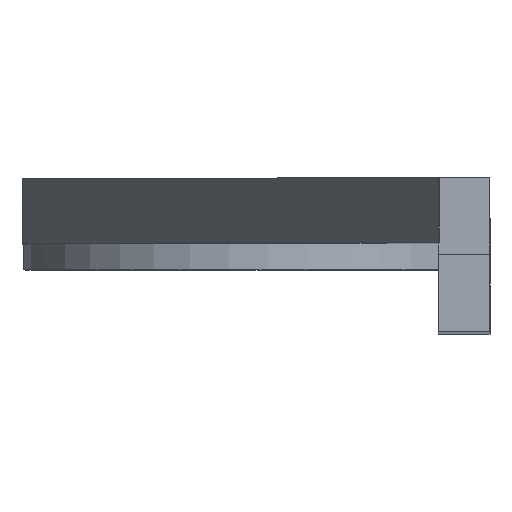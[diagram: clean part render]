
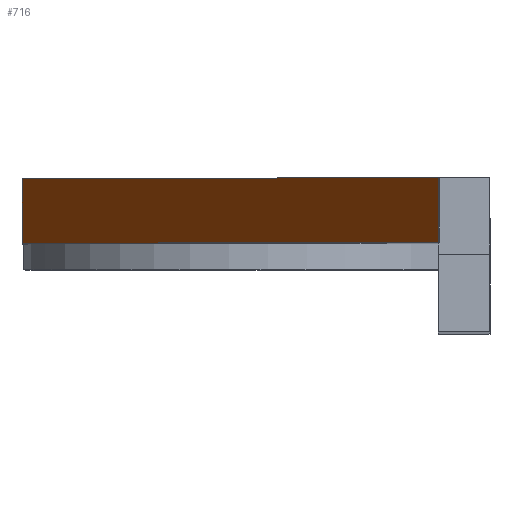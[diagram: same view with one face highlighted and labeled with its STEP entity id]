
A CAD part, top view. The second image highlights one B-rep face of the part: STEP entity #716.
In plain terms, the highlighted planar face has unit normal (-0.866, 0, 0.5).
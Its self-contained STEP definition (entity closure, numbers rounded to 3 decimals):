
#34=PLANE('',#796);
#65=FACE_OUTER_BOUND('',#109,.T.);
#109=EDGE_LOOP('',(#585,#586,#587,#588));
#180=LINE('',#1115,#251);
#194=LINE('',#1151,#265);
#214=LINE('',#1196,#285);
#215=LINE('',#1197,#286);
#251=VECTOR('',#900,10.);
#265=VECTOR('',#930,10.);
#285=VECTOR('',#970,10.);
#286=VECTOR('',#971,10.);
#333=VERTEX_POINT('',#1112);
#334=VERTEX_POINT('',#1114);
#347=VERTEX_POINT('',#1148);
#348=VERTEX_POINT('',#1150);
#410=EDGE_CURVE('',#333,#334,#180,.T.);
#428=EDGE_CURVE('',#347,#348,#194,.T.);
#452=EDGE_CURVE('',#333,#348,#214,.T.);
#453=EDGE_CURVE('',#334,#347,#215,.T.);
#585=ORIENTED_EDGE('',*,*,#452,.T.);
#586=ORIENTED_EDGE('',*,*,#428,.F.);
#587=ORIENTED_EDGE('',*,*,#453,.F.);
#588=ORIENTED_EDGE('',*,*,#410,.F.);
#716=ADVANCED_FACE('',(#65),#34,.T.);
#796=AXIS2_PLACEMENT_3D('',#1195,#968,#969);
#900=DIRECTION('',(-0.5,0.,-0.866));
#930=DIRECTION('',(0.5,0.,0.866));
#968=DIRECTION('center_axis',(-0.866,0.,0.5));
#969=DIRECTION('ref_axis',(-0.5,0.,-0.866));
#970=DIRECTION('',(0.,1.,0.));
#971=DIRECTION('',(0.,1.,0.));
#1112=CARTESIAN_POINT('',(-11.05,-1.,42.886));
#1114=CARTESIAN_POINT('',(-27.15,-1.,15.));
#1115=CARTESIAN_POINT('',(-27.15,-1.,15.));
#1148=CARTESIAN_POINT('',(-27.15,1.5,15.));
#1150=CARTESIAN_POINT('',(-11.05,1.5,42.886));
#1151=CARTESIAN_POINT('',(-27.15,1.5,15.));
#1195=CARTESIAN_POINT('Origin',(-11.005,0.5,42.963));
#1196=CARTESIAN_POINT('',(-11.05,0.5,42.886));
#1197=CARTESIAN_POINT('',(-27.15,0.5,15.));
